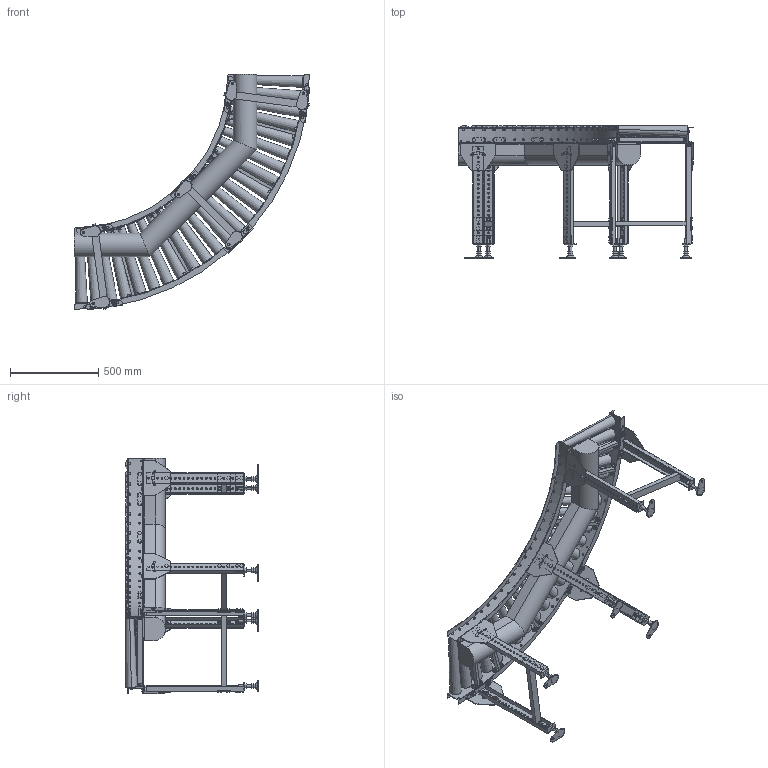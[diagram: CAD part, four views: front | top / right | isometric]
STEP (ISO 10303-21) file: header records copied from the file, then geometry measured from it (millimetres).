
FILE_DESCRIPTION (( 'STEP AP214' ), '1' );
FILE_NAME ('MCD50C9-90-400-75.STEP', '2022-08-01T07:06:10', ( '' ), ( '' ), 'SwSTEP 2.0', 'SolidWorks 2017', '' );
FILE_SCHEMA (( 'AUTOMOTIVE_DESIGN' ));
Length unit declared in the file: millimetre
Products named in the file (1): MCD50C9-90-400-75
Bounding box: 1332.34 x 750 x 1332.34 mm (x, y, z)
Volume: 51349158 mm3; surface area: 5185129.7 mm2
Topology: 28 solids, 58 shells, 3903 faces, 9300 edges, 5866 vertices
Faces by surface type: plane 2752, cylinder 1091, cone 60
Entity records: 168476 total; most frequent: CARTESIAN_POINT 32670, DIRECTION 19596, ORIENTED_EDGE 18600, EDGE_CURVE 9300, AXIS2_PLACEMENT_3D 6826, VECTOR 5944, LINE 5944, VERTEX_POINT 5866
